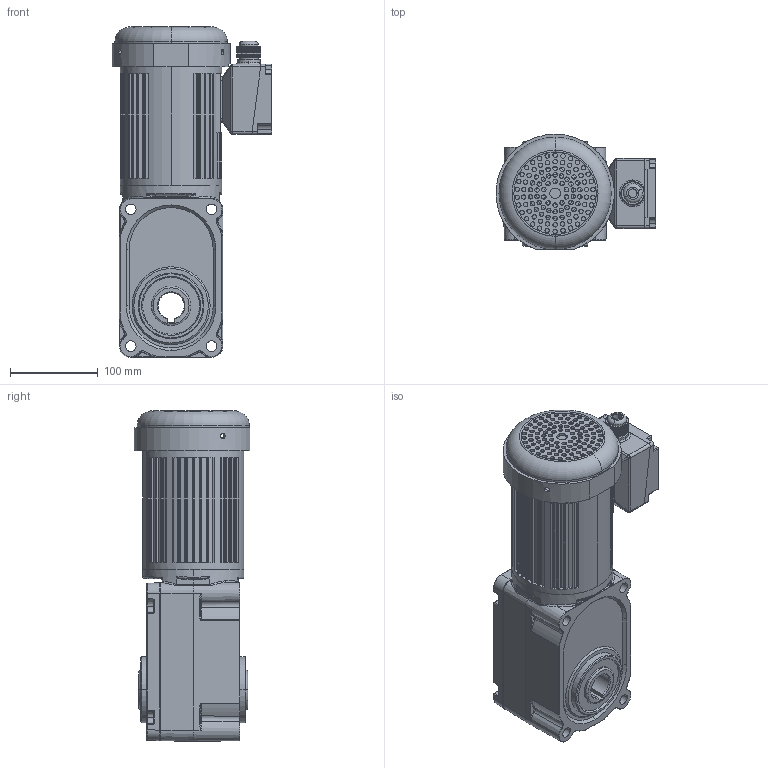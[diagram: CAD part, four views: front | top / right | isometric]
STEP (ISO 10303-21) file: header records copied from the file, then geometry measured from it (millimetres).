
FILE_DESCRIPTION (( 'STEP AP203' ), '1' );
FILE_NAME ('ZDF3-30H80K-240K-200-S3.STEP', '2020-05-05T06:34:51', ( '' ), ( '' ), 'SwSTEP 2.0', 'SolidWorks 2019', '' );
FILE_SCHEMA (( 'CONFIG_CONTROL_DESIGN' ));
Length unit declared in the file: millimetre
Products named in the file (3): ZDF3-30H80K-240K-200-S3; ZDF3-30H80K-240K-200-S3(B); 嫖萇儂
Assembly tree (2 placements, depth 2):
  ZDF3-30H80K-240K-200-S3
    ZDF3-30H80K-240K-200-S3(B)
    嫖萇儂
Bounding box: 182.35 x 132 x 377.44 mm (x, y, z)
Volume: 2673716.3 mm3; surface area: 471091.7 mm2
Topology: 9 solids, 9 shells, 2327 faces, 5902 edges, 3623 vertices
Faces by surface type: cylinder 1104, plane 469, bspline 373, torus 168, cone 167, sphere 46
Entity records: 92336 total; most frequent: CARTESIAN_POINT 39030, ORIENTED_EDGE 11716, DIRECTION 10427, EDGE_CURVE 5858, AXIS2_PLACEMENT_3D 4260, VERTEX_POINT 3623, EDGE_LOOP 2691, ADVANCED_FACE 2327
